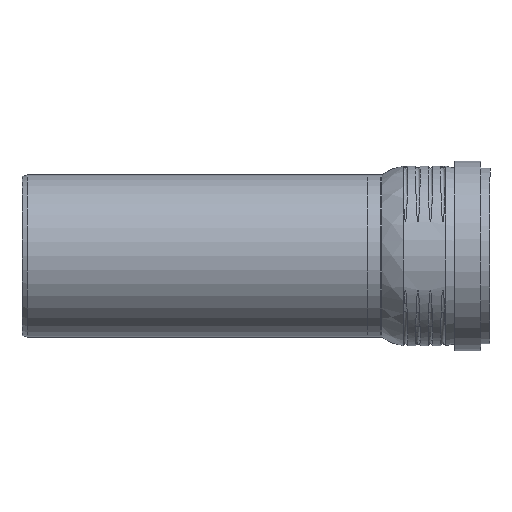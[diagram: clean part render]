
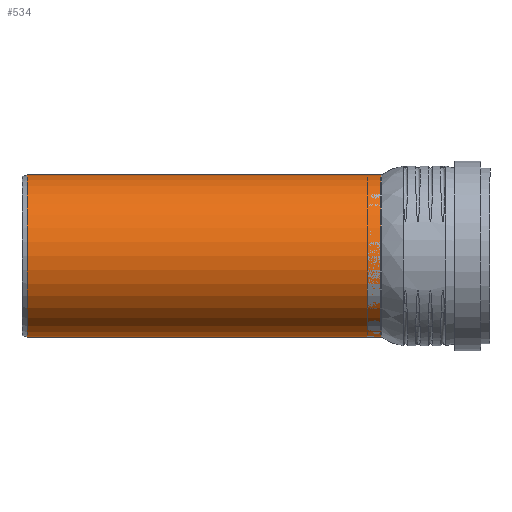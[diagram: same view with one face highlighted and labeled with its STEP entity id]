
A CAD part, top view. The second image highlights one B-rep face of the part: STEP entity #534.
In plain terms, the highlighted cylindrical face has radius 55.1 mm (diameter 110.2 mm), a full revolution.
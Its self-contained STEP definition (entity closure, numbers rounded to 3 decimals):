
#66=CYLINDRICAL_SURFACE('',#580,55.1);
#87=FACE_BOUND('',#158,.T.);
#122=FACE_OUTER_BOUND('',#157,.T.);
#157=EDGE_LOOP('',(#370));
#158=EDGE_LOOP('',(#371));
#222=CIRCLE('',#576,55.1);
#225=CIRCLE('',#581,55.1);
#249=VERTEX_POINT('',#771);
#252=VERTEX_POINT('',#779);
#304=EDGE_CURVE('',#249,#249,#222,.T.);
#307=EDGE_CURVE('',#252,#252,#225,.T.);
#370=ORIENTED_EDGE('',*,*,#307,.F.);
#371=ORIENTED_EDGE('',*,*,#304,.F.);
#534=ADVANCED_FACE('',(#122,#87),#66,.T.);
#576=AXIS2_PLACEMENT_3D('',#772,#643,#644);
#580=AXIS2_PLACEMENT_3D('',#778,#651,#652);
#581=AXIS2_PLACEMENT_3D('',#780,#653,#654);
#643=DIRECTION('center_axis',(-1.,0.,0.));
#644=DIRECTION('ref_axis',(0.,1.,0.));
#651=DIRECTION('center_axis',(1.,0.,0.));
#652=DIRECTION('ref_axis',(0.,1.,0.));
#653=DIRECTION('center_axis',(1.,0.,0.));
#654=DIRECTION('ref_axis',(0.,1.,0.));
#771=CARTESIAN_POINT('',(-118.45,-55.1,0.));
#772=CARTESIAN_POINT('Origin',(-118.45,0.,0.));
#778=CARTESIAN_POINT('Origin',(0.,0.,
0.));
#779=CARTESIAN_POINT('',(121.95,-55.1,0.));
#780=CARTESIAN_POINT('Origin',(121.95,0.,0.));
